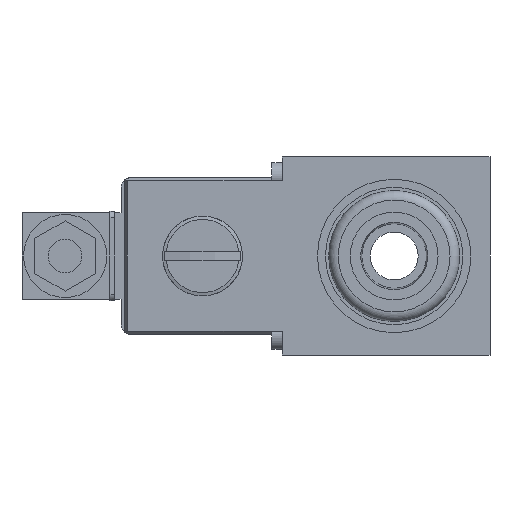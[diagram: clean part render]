
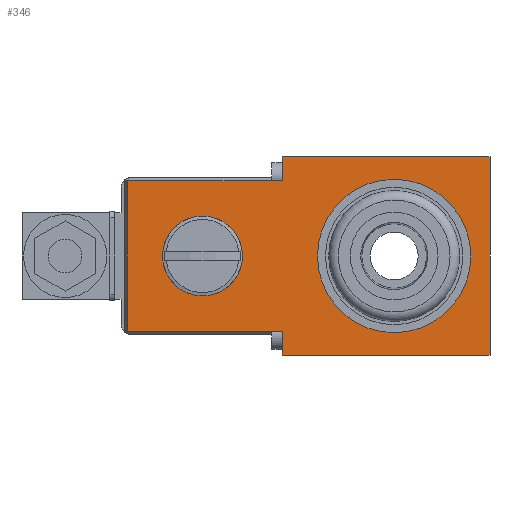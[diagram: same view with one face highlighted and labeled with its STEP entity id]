
A CAD part, left-side view. The second image highlights one B-rep face of the part: STEP entity #346.
In plain terms, the highlighted planar face has unit normal (-1, 0, 0).
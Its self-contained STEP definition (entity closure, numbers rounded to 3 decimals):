
#346 = ADVANCED_FACE( '', ( #818, #819, #820 ), #821, .T. );
#818 = FACE_BOUND( '', #1415, .T. );
#819 = FACE_OUTER_BOUND( '', #1416, .T. );
#820 = FACE_BOUND( '', #1417, .T. );
#821 = PLANE( '', #1418 );
#1415 = EDGE_LOOP( '', ( #2371 ) );
#1416 = EDGE_LOOP( '', ( #2372, #2373, #2374, #2375, #2376, #2377, #2378, #2379 ) );
#1417 = EDGE_LOOP( '', ( #2380 ) );
#1418 = AXIS2_PLACEMENT_3D( '', #2381, #2382, #2383 );
#2371 = ORIENTED_EDGE( '', *, *, #3545, .T. );
#2372 = ORIENTED_EDGE( '', *, *, #3400, .T. );
#2373 = ORIENTED_EDGE( '', *, *, #3346, .F. );
#2374 = ORIENTED_EDGE( '', *, *, #3552, .F. );
#2375 = ORIENTED_EDGE( '', *, *, #3286, .T. );
#2376 = ORIENTED_EDGE( '', *, *, #3413, .T. );
#2377 = ORIENTED_EDGE( '', *, *, #3342, .F. );
#2378 = ORIENTED_EDGE( '', *, *, #3550, .F. );
#2379 = ORIENTED_EDGE( '', *, *, #3475, .F. );
#2380 = ORIENTED_EDGE( '', *, *, #3257, .T. );
#2381 = CARTESIAN_POINT( '', ( -25., -55., -31. ) );
#2382 = DIRECTION( '', ( -1., 0., 0. ) );
#2383 = DIRECTION( '', ( 0., 0., 1. ) );
#3257 = EDGE_CURVE( '', #3839, #3839, #3840, .F. );
#3286 = EDGE_CURVE( '', #3884, #3888, #3890, .T. );
#3342 = EDGE_CURVE( '', #3983, #3985, #3986, .T. );
#3346 = EDGE_CURVE( '', #3991, #3993, #3994, .T. );
#3400 = EDGE_CURVE( '', #4080, #3993, #4081, .T. );
#3413 = EDGE_CURVE( '', #3888, #3985, #4104, .T. );
#3475 = EDGE_CURVE( '', #4080, #4203, #4204, .T. );
#3545 = EDGE_CURVE( '', #4305, #4305, #4306, .F. );
#3550 = EDGE_CURVE( '', #4203, #3983, #4313, .T. );
#3552 = EDGE_CURVE( '', #3884, #3991, #4315, .T. );
#3839 = VERTEX_POINT( '', #4693 );
#3840 = CIRCLE( '', #4694, 24. );
#3884 = VERTEX_POINT( '', #4750 );
#3888 = VERTEX_POINT( '', #4756 );
#3890 = LINE( '', #4759, #4760 );
#3983 = VERTEX_POINT( '', #4878 );
#3985 = VERTEX_POINT( '', #4881 );
#3986 = LINE( '', #4882, #4883 );
#3991 = VERTEX_POINT( '', #4890 );
#3993 = VERTEX_POINT( '', #4893 );
#3994 = LINE( '', #4894, #4895 );
#4080 = VERTEX_POINT( '', #5005 );
#4081 = LINE( '', #5006, #5007 );
#4104 = LINE( '', #5041, #5042 );
#4203 = VERTEX_POINT( '', #5173 );
#4204 = LINE( '', #5174, #5175 );
#4305 = VERTEX_POINT( '', #5313 );
#4306 = CIRCLE( '', #5314, 12.5 );
#4313 = LINE( '', #5321, #5322 );
#4315 = LINE( '', #5324, #5325 );
#4693 = CARTESIAN_POINT( '', ( -25., -25., 24. ) );
#4694 = AXIS2_PLACEMENT_3D( '', #5748, #5749, #5750 );
#4750 = CARTESIAN_POINT( '', ( -25., -55., -31. ) );
#4756 = CARTESIAN_POINT( '', ( -25., -55., 31. ) );
#4759 = CARTESIAN_POINT( '', ( -25., -55., -31. ) );
#4760 = VECTOR( '', #5787, 1000. );
#4878 = CARTESIAN_POINT( '', ( -25., 10., 23.5 ) );
#4881 = CARTESIAN_POINT( '', ( -25., 10., 31. ) );
#4882 = CARTESIAN_POINT( '', ( -25., 10., -31. ) );
#4883 = VECTOR( '', #5871, 1000. );
#4890 = CARTESIAN_POINT( '', ( -25., 10., -31. ) );
#4893 = CARTESIAN_POINT( '', ( -25., 10., -23.5 ) );
#4894 = CARTESIAN_POINT( '', ( -25., 10., -31. ) );
#4895 = VECTOR( '', #5875, 1000. );
#5005 = CARTESIAN_POINT( '', ( -25., 58.5, -23.5 ) );
#5006 = CARTESIAN_POINT( '', ( -25., 58.5, -23.5 ) );
#5007 = VECTOR( '', #5948, 1000. );
#5041 = CARTESIAN_POINT( '', ( -25., -55., 31. ) );
#5042 = VECTOR( '', #5960, 1000. );
#5173 = CARTESIAN_POINT( '', ( -25., 58.5, 23.5 ) );
#5174 = CARTESIAN_POINT( '', ( -25., 58.5, -23.5 ) );
#5175 = VECTOR( '', #6032, 1000. );
#5313 = CARTESIAN_POINT( '', ( -25., 35., 12.5 ) );
#5314 = AXIS2_PLACEMENT_3D( '', #6106, #6107, #6108 );
#5321 = CARTESIAN_POINT( '', ( -25., 58.5, 23.5 ) );
#5322 = VECTOR( '', #6115, 1000. );
#5324 = CARTESIAN_POINT( '', ( -25., -55., -31. ) );
#5325 = VECTOR( '', #6116, 1000. );
#5748 = CARTESIAN_POINT( '', ( -25., -25., 0. ) );
#5749 = DIRECTION( '', ( -1., 0., 0. ) );
#5750 = DIRECTION( '', ( 0., 0., 1. ) );
#5787 = DIRECTION( '', ( 0., 0., 1. ) );
#5871 = DIRECTION( '', ( 0., 0., 1. ) );
#5875 = DIRECTION( '', ( 0., 0., 1. ) );
#5948 = DIRECTION( '', ( 0., -1., 0. ) );
#5960 = DIRECTION( '', ( 0., 1., 0. ) );
#6032 = DIRECTION( '', ( 0., 0., 1. ) );
#6106 = CARTESIAN_POINT( '', ( -25., 35., 0. ) );
#6107 = DIRECTION( '', ( -1., 0., 0. ) );
#6108 = DIRECTION( '', ( 0., 0., 1. ) );
#6115 = DIRECTION( '', ( 0., -1., 0. ) );
#6116 = DIRECTION( '', ( 0., 1., 0. ) );
